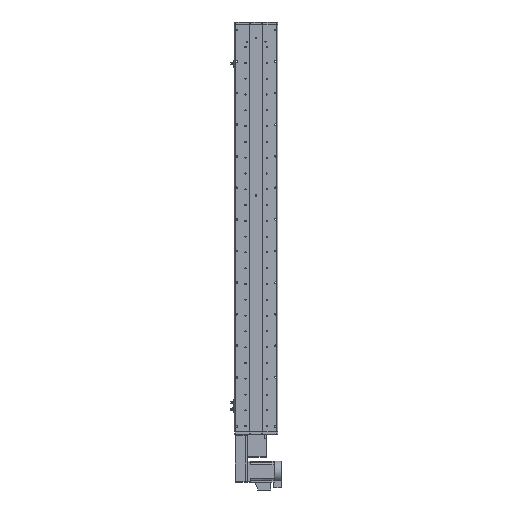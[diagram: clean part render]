
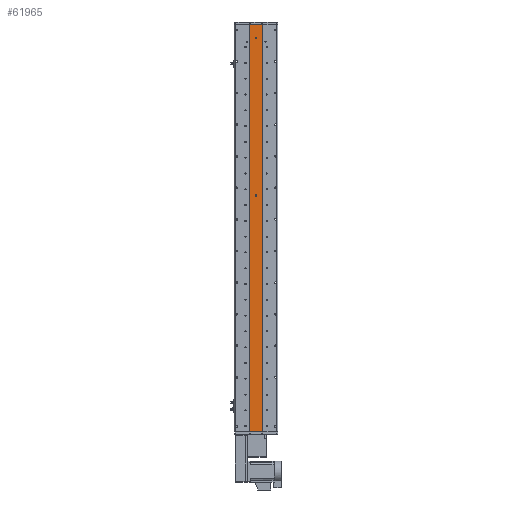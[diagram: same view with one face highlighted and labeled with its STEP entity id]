
A CAD part, front view. The second image highlights one B-rep face of the part: STEP entity #61965.
In plain terms, the highlighted planar face has unit normal (0, -1, 0).
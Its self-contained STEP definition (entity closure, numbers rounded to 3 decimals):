
#604 = DIRECTION ( 'NONE',  ( 0., 0., -1. ) ) ;
#1104 = CARTESIAN_POINT ( 'NONE',  ( 0., 1., 723.5 ) ) ;
#1265 = CARTESIAN_POINT ( 'NONE',  ( 0., 1., 123.5 ) ) ;
#1462 = ORIENTED_EDGE ( 'NONE', *, *, #55983, .F. ) ;
#4476 = LINE ( 'NONE', #57466, #16883 ) ;
#5832 = EDGE_CURVE ( 'NONE', #24089, #26446, #62503, .T. ) ;
#6356 = DIRECTION ( 'NONE',  ( 0., 0., -1. ) ) ;
#6502 = DIRECTION ( 'NONE',  ( 0., 0., -1. ) ) ;
#8478 = DIRECTION ( 'NONE',  ( 1., 0., 0. ) ) ;
#9621 = ORIENTED_EDGE ( 'NONE', *, *, #63431, .F. ) ;
#9953 = CIRCLE ( 'NONE', #11125, 3. ) ;
#11125 = AXIS2_PLACEMENT_3D ( 'NONE', #1265, #38155, #6502 ) ;
#12337 = CARTESIAN_POINT ( 'NONE',  ( 25., 1., 773.5 ) ) ;
#12480 = EDGE_CURVE ( 'NONE', #26446, #47155, #36644, .T. ) ;
#13006 = EDGE_CURVE ( 'NONE', #18145, #22812, #30114, .T. ) ;
#13542 = CARTESIAN_POINT ( 'NONE',  ( 25., 1., 773.5 ) ) ;
#16883 = VECTOR ( 'NONE', #604, 1000. ) ;
#17223 = AXIS2_PLACEMENT_3D ( 'NONE', #1104, #37993, #6356 ) ;
#17233 = CARTESIAN_POINT ( 'NONE',  ( 0., 1., 123.5 ) ) ;
#17657 = DIRECTION ( 'NONE',  ( 0., 1., 0. ) ) ;
#18145 = VERTEX_POINT ( 'NONE', #21801 ) ;
#21036 = EDGE_LOOP ( 'NONE', ( #40431, #1462, #23957, #40250 ) ) ;
#21801 = CARTESIAN_POINT ( 'NONE',  ( 0., 1., 720.5 ) ) ;
#22557 = DIRECTION ( 'NONE',  ( 0., 0., -1. ) ) ;
#22812 = VERTEX_POINT ( 'NONE', #35900 ) ;
#23957 = ORIENTED_EDGE ( 'NONE', *, *, #31565, .F. ) ;
#24089 = VERTEX_POINT ( 'NONE', #67784 ) ;
#24517 = AXIS2_PLACEMENT_3D ( 'NONE', #29411, #66332, #34712 ) ;
#24588 = CARTESIAN_POINT ( 'NONE',  ( 25., 1., 773.5 ) ) ;
#24945 = FACE_BOUND ( 'NONE', #66975, .T. ) ;
#26446 = VERTEX_POINT ( 'NONE', #63142 ) ;
#27280 = CARTESIAN_POINT ( 'NONE',  ( 25., 1., -773.5 ) ) ;
#29411 = CARTESIAN_POINT ( 'NONE',  ( 0., 1., 723.5 ) ) ;
#29460 = CARTESIAN_POINT ( 'NONE',  ( 0., 1., 120.5 ) ) ;
#30114 = CIRCLE ( 'NONE', #24517, 3. ) ;
#30280 = CIRCLE ( 'NONE', #39166, 3. ) ;
#30915 = EDGE_CURVE ( 'NONE', #61229, #59222, #9953, .T. ) ;
#31565 = EDGE_CURVE ( 'NONE', #24089, #68287, #58477, .T. ) ;
#32810 = VECTOR ( 'NONE', #33464, 1000. ) ;
#33464 = DIRECTION ( 'NONE',  ( 0., 0., -1. ) ) ;
#34712 = DIRECTION ( 'NONE',  ( 0., 0., -1. ) ) ;
#35900 = CARTESIAN_POINT ( 'NONE',  ( 0., 1., 726.5 ) ) ;
#36644 = LINE ( 'NONE', #59669, #63025 ) ;
#37993 = DIRECTION ( 'NONE',  ( 0., -1., 0. ) ) ;
#38155 = DIRECTION ( 'NONE',  ( 0., -1., 0. ) ) ;
#38692 = PLANE ( 'NONE',  #66627 ) ;
#38998 = FACE_BOUND ( 'NONE', #67271, .T. ) ;
#39166 = AXIS2_PLACEMENT_3D ( 'NONE', #17233, #54104, #22557 ) ;
#39356 = ORIENTED_EDGE ( 'NONE', *, *, #68088, .F. ) ;
#40250 = ORIENTED_EDGE ( 'NONE', *, *, #5832, .T. ) ;
#40431 = ORIENTED_EDGE ( 'NONE', *, *, #12480, .T. ) ;
#41292 = CIRCLE ( 'NONE', #17223, 3. ) ;
#42455 = CARTESIAN_POINT ( 'NONE',  ( 0., 1., 126.5 ) ) ;
#47155 = VERTEX_POINT ( 'NONE', #27280 ) ;
#51816 = ORIENTED_EDGE ( 'NONE', *, *, #13006, .F. ) ;
#52994 = FACE_OUTER_BOUND ( 'NONE', #21036, .T. ) ;
#54104 = DIRECTION ( 'NONE',  ( 0., -1., 0. ) ) ;
#54150 = DIRECTION ( 'NONE',  ( 1., 0., 0. ) ) ;
#54511 = DIRECTION ( 'NONE',  ( 0., 0., 1. ) ) ;
#55983 = EDGE_CURVE ( 'NONE', #68287, #47155, #4476, .T. ) ;
#57466 = CARTESIAN_POINT ( 'NONE',  ( 25., 1., 773.5 ) ) ;
#58460 = ORIENTED_EDGE ( 'NONE', *, *, #30915, .F. ) ;
#58477 = LINE ( 'NONE', #13542, #60139 ) ;
#59222 = VERTEX_POINT ( 'NONE', #29460 ) ;
#59669 = CARTESIAN_POINT ( 'NONE',  ( 25., 1., -773.5 ) ) ;
#59709 = CARTESIAN_POINT ( 'NONE',  ( -25., 1., 773.5 ) ) ;
#60139 = VECTOR ( 'NONE', #8478, 1000. ) ;
#61229 = VERTEX_POINT ( 'NONE', #42455 ) ;
#61965 = ADVANCED_FACE ( 'NONE', ( #38998, #24945, #52994 ), #38692, .F. ) ;
#62503 = LINE ( 'NONE', #59709, #32810 ) ;
#63025 = VECTOR ( 'NONE', #54150, 1000. ) ;
#63142 = CARTESIAN_POINT ( 'NONE',  ( -25., 1., -773.5 ) ) ;
#63431 = EDGE_CURVE ( 'NONE', #22812, #18145, #41292, .T. ) ;
#66332 = DIRECTION ( 'NONE',  ( 0., -1., 0. ) ) ;
#66627 = AXIS2_PLACEMENT_3D ( 'NONE', #12337, #17657, #54511 ) ;
#66975 = EDGE_LOOP ( 'NONE', ( #51816, #9621 ) ) ;
#67271 = EDGE_LOOP ( 'NONE', ( #39356, #58460 ) ) ;
#67784 = CARTESIAN_POINT ( 'NONE',  ( -25., 1., 773.5 ) ) ;
#68088 = EDGE_CURVE ( 'NONE', #59222, #61229, #30280, .T. ) ;
#68287 = VERTEX_POINT ( 'NONE', #24588 ) ;
